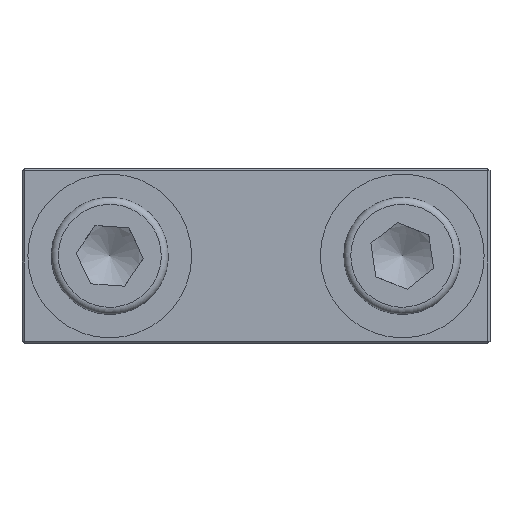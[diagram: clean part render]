
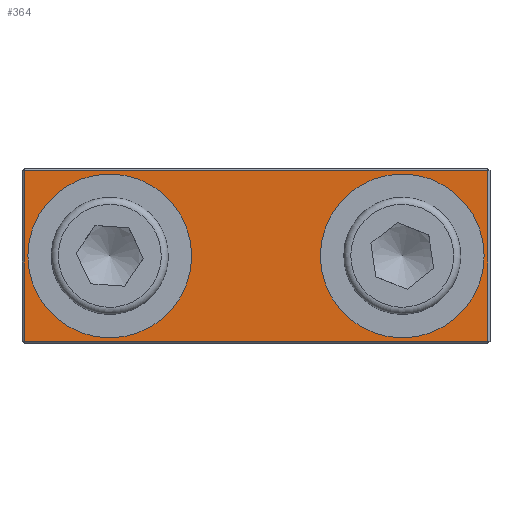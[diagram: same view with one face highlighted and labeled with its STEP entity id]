
A CAD part, top view. The second image highlights one B-rep face of the part: STEP entity #364.
In plain terms, the highlighted planar face has unit normal (0, 0, 1).
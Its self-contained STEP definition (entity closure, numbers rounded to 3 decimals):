
#299=CARTESIAN_POINT('',(14.2,0.,1.5));
#300=VERTEX_POINT('',#299);
#301=CARTESIAN_POINT('',(12.5,0.0,1.5));
#302=DIRECTION('',(0.0,0.0,1.0));
#303=DIRECTION('',(-1.0,0.0,0.0));
#304=AXIS2_PLACEMENT_3D('',#301,#302,#303);
#305=CIRCLE('',#304,1.7);
#306=EDGE_CURVE('',#300,#300,#305,.T.);
#311=CARTESIAN_POINT('',(0.,0.,1.5));
#312=DIRECTION('',(0.0,0.0,1.0));
#313=DIRECTION('',(1.0,0.0,0.0));
#314=AXIS2_PLACEMENT_3D('',#311,#312,#313);
#315=PLANE('',#314);
#316=CARTESIAN_POINT('',(-19.8,-7.3,1.5));
#317=VERTEX_POINT('',#316);
#318=CARTESIAN_POINT('',(-19.8,7.3,1.5));
#319=VERTEX_POINT('',#318);
#320=CARTESIAN_POINT('',(-19.8,-7.3,1.5));
#321=DIRECTION('',(0.0,1.0,0.0));
#322=VECTOR('',#321,14.6);
#323=LINE('',#320,#322);
#324=EDGE_CURVE('',#317,#319,#323,.T.);
#325=ORIENTED_EDGE('',*,*,#324,.F.);
#326=CARTESIAN_POINT('',(19.8,-7.3,1.5));
#327=VERTEX_POINT('',#326);
#328=CARTESIAN_POINT('',(19.8,-7.3,1.5));
#329=DIRECTION('',(-1.0,0.0,0.0));
#330=VECTOR('',#329,39.6);
#331=LINE('',#328,#330);
#332=EDGE_CURVE('',#327,#317,#331,.T.);
#333=ORIENTED_EDGE('',*,*,#332,.F.);
#334=CARTESIAN_POINT('',(19.8,7.3,1.5));
#335=VERTEX_POINT('',#334);
#336=CARTESIAN_POINT('',(19.8,7.3,1.5));
#337=DIRECTION('',(0.0,-1.0,0.0));
#338=VECTOR('',#337,14.6);
#339=LINE('',#336,#338);
#340=EDGE_CURVE('',#335,#327,#339,.T.);
#341=ORIENTED_EDGE('',*,*,#340,.F.);
#342=CARTESIAN_POINT('',(-19.8,7.3,1.5));
#343=DIRECTION('',(1.0,0.0,0.0));
#344=VECTOR('',#343,39.6);
#345=LINE('',#342,#344);
#346=EDGE_CURVE('',#319,#335,#345,.T.);
#347=ORIENTED_EDGE('',*,*,#346,.F.);
#348=EDGE_LOOP('',(#325,#333,#341,#347));
#349=FACE_OUTER_BOUND('',#348,.T.);
#350=CARTESIAN_POINT('',(-10.8,0.,1.5));
#351=VERTEX_POINT('',#350);
#352=CARTESIAN_POINT('',(-12.5,0.0,1.5));
#353=DIRECTION('',(0.0,0.0,1.0));
#354=DIRECTION('',(-1.0,0.0,0.0));
#355=AXIS2_PLACEMENT_3D('',#352,#353,#354);
#356=CIRCLE('',#355,1.7);
#357=EDGE_CURVE('',#351,#351,#356,.T.);
#358=ORIENTED_EDGE('',*,*,#357,.F.);
#359=EDGE_LOOP('',(#358));
#360=FACE_BOUND('',#359,.T.);
#361=ORIENTED_EDGE('',*,*,#306,.F.);
#362=EDGE_LOOP('',(#361));
#363=FACE_BOUND('',#362,.T.);
#364=ADVANCED_FACE('',(#349,#360,#363),#315,.T.);
